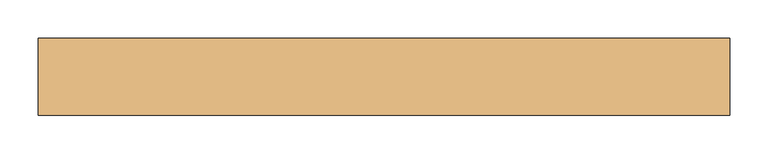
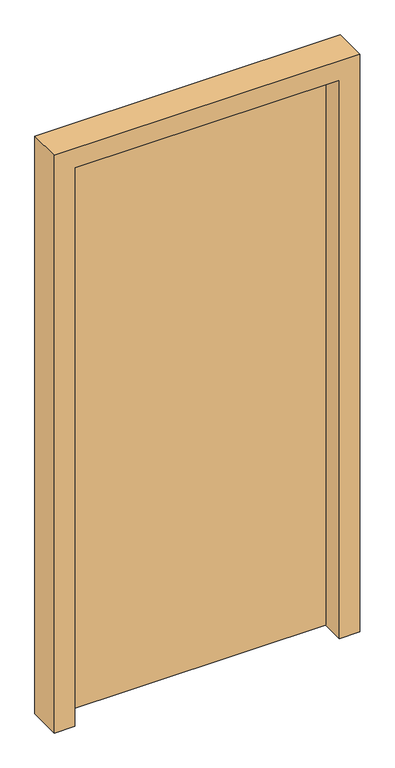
"""IFC4 building model written with IfcOpenShell, lengths in millimetres: door geometry, DR000-문 : DR000-미닫이 문 900x1800."""

from ifc_helpers import new_model, si_unit, origin, origin_with_axes, place, context, project, spatial, polyline, outline, extrude, faceted_brep, source, transform, mapped, element, save


def door_dfe2024e(model_context):
    return source(origin(), model_context, "Body", "SolidModel", [
        extrude(outline(polyline([(420.0, 50.0), (420.0, 20.0), (-420.0, 20.0), (-420.0, 50.0), (420.0, 50.0)])), origin_with_axes(), (0.0, 0.0, 1.0), 1770.0),
        faceted_brep([(-450.0, -50.0, 0.0), (-450.0, 50.0, 0.0), (-420.0, 50.0, 0.0), (-420.0, 20.0, 0.0), (-390.0, 20.0, 0.0), (-390.0, -50.0, 0.0), (-450.0, -50.0, 1800.0), (-450.0, 50.0, 1800.0), (450.0, 50.0, 1800.0), (450.0, 50.0, 0.0), (420.0, 50.0, 0.0), (420.0, 50.0, 1770.0), (-420.0, 50.0, 1770.0), (-420.0, 20.0, 1770.0), (420.0, 20.0, 1770.0), (420.0, 20.0, 0.0), (390.0, 20.0, 0.0), (390.0, 20.0, 1740.0), (-390.0, 20.0, 1740.0), (-390.0, -50.0, 1740.0), (390.0, -50.0, 1740.0), (390.0, -50.0, 0.0), (450.0, -50.0, 0.0), (450.0, -50.0, 1800.0)], [[[0, 1, 2, 3, 4, 5]], [[1, 0, 6, 7]], [[2, 1, 7, 8, 9, 10, 11, 12]], [[3, 2, 12, 13]], [[4, 3, 13, 14, 15, 16, 17, 18]], [[5, 4, 18, 19]], [[0, 5, 19, 20, 21, 22, 23, 6]], [[7, 6, 23, 8]], [[13, 12, 11, 14]], [[19, 18, 17, 20]], [[22, 21, 16, 15, 10, 9]], [[8, 23, 22, 9]], [[14, 11, 10, 15]], [[20, 17, 16, 21]]]),
    ])


if __name__ == "__main__":
    model = new_model("IFC4")
    model_context = context("Model", 3, world=origin())
    ifc_project = project(units=[si_unit("LENGTHUNIT", "METRE", prefix="MILLI")], contexts=[model_context])
    site = spatial("IfcSite", under=ifc_project)
    building = spatial("IfcBuilding", under=site)
    placement = place(None, origin())
    door_shape = door_dfe2024e(model_context)
    element("IfcDoor", 1, ObjectType="DR000-문 : DR000-미닫이 문 900x1800", at=placement, inside=building, context=model_context, shape_type="MappedRepresentation", body=[
        mapped(door_shape, transform((0.0, 0.0, 0.0), x_axis=(1.0, 0.0, 0.0), y_axis=(0.0, 1.0, 0.0), z_axis=(0.0, 0.0, 1.0))),
    ])
    save(model, "model.ifc")
